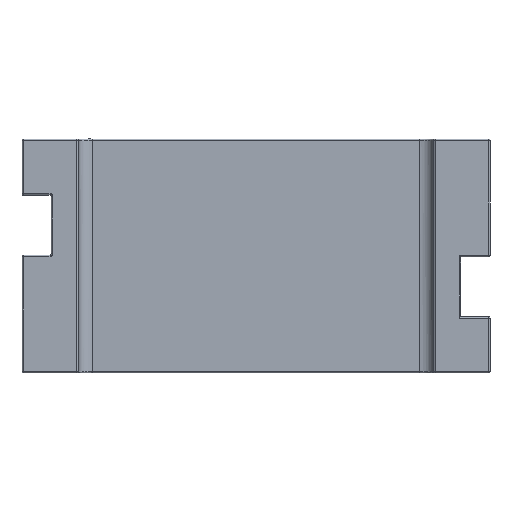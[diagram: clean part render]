
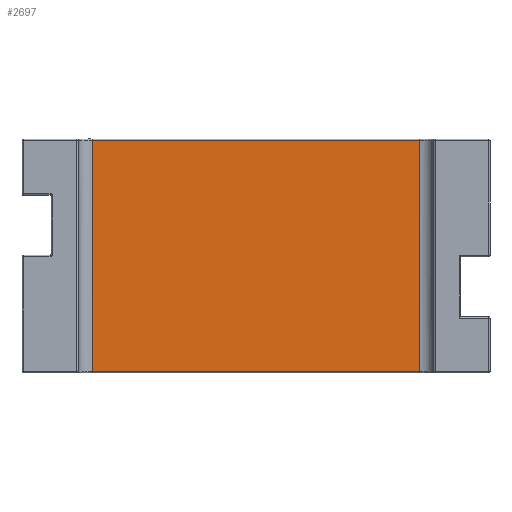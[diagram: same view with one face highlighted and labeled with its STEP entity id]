
A CAD part, front view. The second image highlights one B-rep face of the part: STEP entity #2697.
In plain terms, the highlighted planar face has unit normal (0, -1, 0).
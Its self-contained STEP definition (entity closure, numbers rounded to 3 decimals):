
#309 = CARTESIAN_POINT ( 'NONE',  ( 2.213, 0.25, -1.567 ) ) ;
#499 = FACE_OUTER_BOUND ( 'NONE', #2169, .T. ) ;
#534 = VECTOR ( 'NONE', #1006, 1000. ) ;
#540 = ORIENTED_EDGE ( 'NONE', *, *, #2851, .T. ) ;
#609 = ORIENTED_EDGE ( 'NONE', *, *, #2343, .F. ) ;
#1006 = DIRECTION ( 'NONE',  ( -1., 0., 0. ) ) ;
#1074 = LINE ( 'NONE', #5258, #4394 ) ;
#1232 = VERTEX_POINT ( 'NONE', #4756 ) ;
#1352 = CARTESIAN_POINT ( 'NONE',  ( -2.213, 0.25, -1.587 ) ) ;
#1593 = VERTEX_POINT ( 'NONE', #4778 ) ;
#2169 = EDGE_LOOP ( 'NONE', ( #609, #540, #5257, #4414 ) ) ;
#2329 = DIRECTION ( 'NONE',  ( 0., -1., 0. ) ) ;
#2343 = EDGE_CURVE ( 'NONE', #1593, #5711, #2637, .T. ) ;
#2637 = LINE ( 'NONE', #5972, #5806 ) ;
#2697 = ADVANCED_FACE ( 'NONE', ( #499 ), #3773, .T. ) ;
#2785 = LINE ( 'NONE', #3729, #2946 ) ;
#2851 = EDGE_CURVE ( 'NONE', #1593, #5592, #2785, .T. ) ;
#2946 = VECTOR ( 'NONE', #4225, 1000. ) ;
#3005 = EDGE_CURVE ( 'NONE', #1232, #5711, #3768, .T. ) ;
#3421 = DIRECTION ( 'NONE',  ( 0., 0., 1. ) ) ;
#3729 = CARTESIAN_POINT ( 'NONE',  ( -2.213, 0.25, -1.567 ) ) ;
#3768 = LINE ( 'NONE', #5228, #534 ) ;
#3773 = PLANE ( 'NONE',  #4045 ) ;
#4045 = AXIS2_PLACEMENT_3D ( 'NONE', #1352, #2329, #5124 ) ;
#4225 = DIRECTION ( 'NONE',  ( 1., 0., 0. ) ) ;
#4394 = VECTOR ( 'NONE', #3421, 1000. ) ;
#4414 = ORIENTED_EDGE ( 'NONE', *, *, #3005, .T. ) ;
#4531 = DIRECTION ( 'NONE',  ( 0., 0., 1. ) ) ;
#4756 = CARTESIAN_POINT ( 'NONE',  ( 2.213, 0.25, 1.567 ) ) ;
#4778 = CARTESIAN_POINT ( 'NONE',  ( -2.213, 0.25, -1.567 ) ) ;
#4798 = EDGE_CURVE ( 'NONE', #5592, #1232, #1074, .T. ) ;
#5124 = DIRECTION ( 'NONE',  ( 0., 0., -1. ) ) ;
#5228 = CARTESIAN_POINT ( 'NONE',  ( -2.213, 0.25, 1.567 ) ) ;
#5257 = ORIENTED_EDGE ( 'NONE', *, *, #4798, .T. ) ;
#5258 = CARTESIAN_POINT ( 'NONE',  ( 2.213, 0.25, -1.587 ) ) ;
#5592 = VERTEX_POINT ( 'NONE', #309 ) ;
#5711 = VERTEX_POINT ( 'NONE', #5798 ) ;
#5798 = CARTESIAN_POINT ( 'NONE',  ( -2.213, 0.25, 1.567 ) ) ;
#5806 = VECTOR ( 'NONE', #4531, 1000. ) ;
#5972 = CARTESIAN_POINT ( 'NONE',  ( -2.213, 0.25, -1.587 ) ) ;
